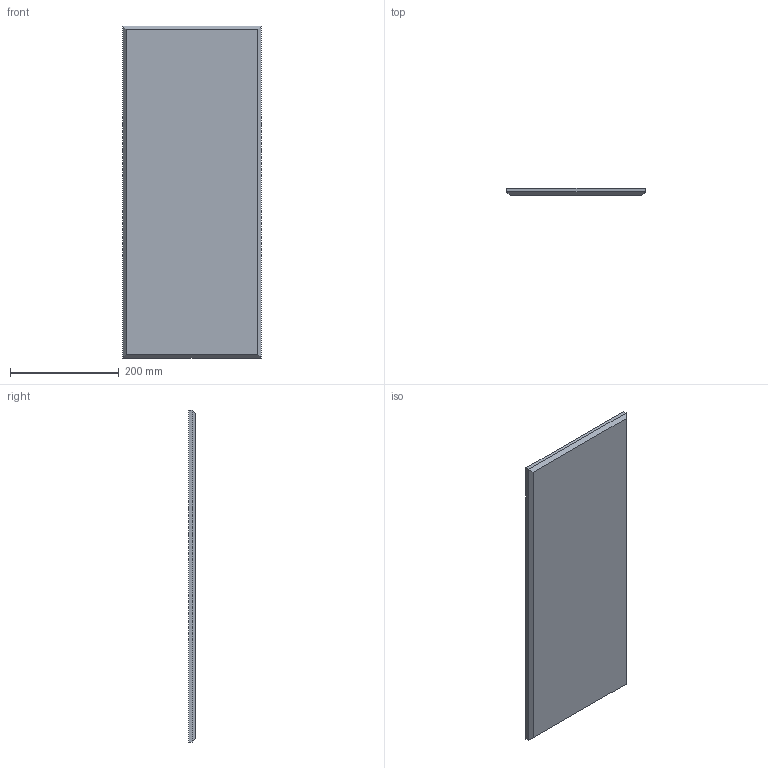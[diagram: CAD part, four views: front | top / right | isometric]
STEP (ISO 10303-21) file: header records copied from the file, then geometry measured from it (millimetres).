
FILE_DESCRIPTION(/* description */ (''),/* implementation_level */ '2;1');
FILE_NAME(/* name */ 'PET PLANQ_Beveled_10x24',/* time_stamp */ '2024-10-31T13:55:30-05:00',/* author */ (''),/* organization */ (''),/* preprocessor_version */ 'ST-DEVELOPER v19.2',/* originating_system */ 'Rhino 8.4',/* authorisation */ '');
FILE_SCHEMA (('CONFIG_CONTROL_DESIGN'));
Length unit declared in the file: inch
Products named in the file (1): Document
Bounding box: 254 x 12.7 x 609.6 mm (x, y, z)
Volume: 1931966.6 mm3; surface area: 325120.7 mm2
Topology: 1 solids, 1 shells, 10 faces, 20 edges, 12 vertices
Faces by surface type: plane 10
Entity records: 310 total; most frequent: CARTESIAN_POINT 64, ORIENTED_EDGE 40, EDGE_CURVE 20, B_SPLINE_CURVE_WITH_KNOTS 20, DIRECTION 14, VERTEX_POINT 12, AXIS2_PLACEMENT_3D 12, ADVANCED_FACE 10
